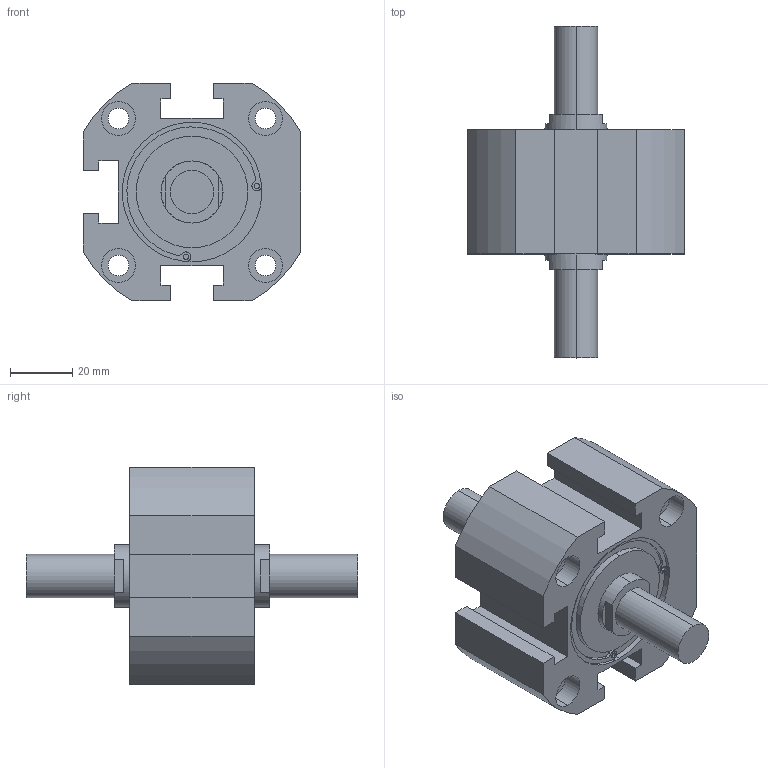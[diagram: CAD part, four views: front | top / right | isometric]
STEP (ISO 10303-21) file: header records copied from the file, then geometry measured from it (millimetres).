
FILE_DESCRIPTION (( 'STEP AP203' ), '1' );
FILE_NAME ('XC#M7-50-10.STEP', '2016-05-23T09:03:38', ( '' ), ( '' ), 'SwSTEP 2.0', 'SolidWorks 2014', '' );
FILE_SCHEMA (( 'CONFIG_CONTROL_DESIGN' ));
Length unit declared in the file: millimetre
Products named in the file (1): XC#M7-50-10
Bounding box: 70 x 107 x 70 mm (x, y, z)
Volume: 156213.1 mm3; surface area: 30369.9 mm2
Topology: 1 solids, 1 shells, 147 faces, 361 edges, 236 vertices
Faces by surface type: cylinder 77, plane 62, cone 8
Entity records: 4466 total; most frequent: DIRECTION 823, CARTESIAN_POINT 741, ORIENTED_EDGE 714, EDGE_CURVE 357, AXIS2_PLACEMENT_3D 318, VERTEX_POINT 236, VECTOR 187, LINE 187
